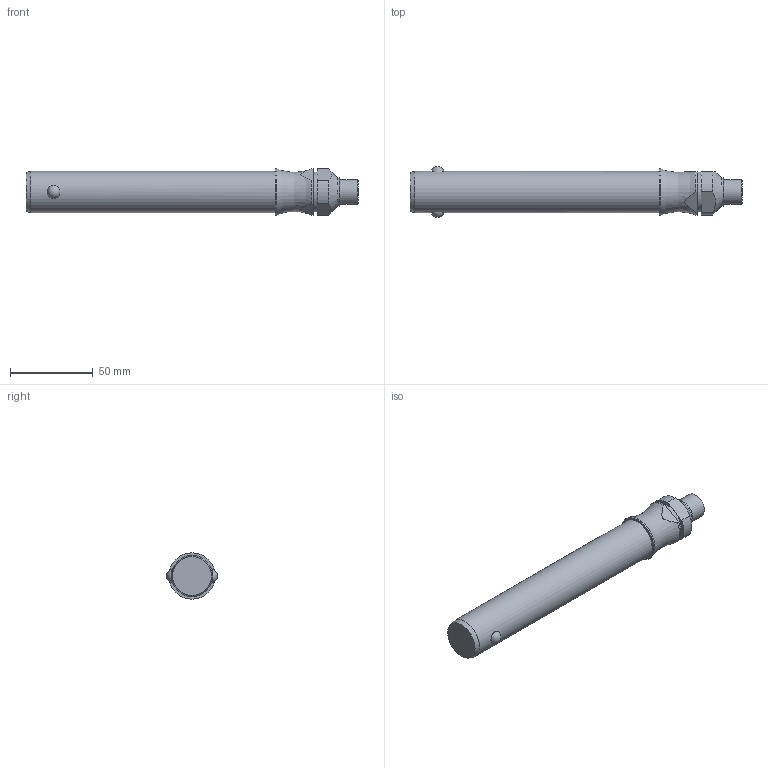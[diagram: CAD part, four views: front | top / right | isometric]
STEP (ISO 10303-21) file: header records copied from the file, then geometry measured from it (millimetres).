
FILE_DESCRIPTION( ( 'STEP AP203' ), '1' );
FILE_NAME( 'C:/Temp/Ganter_Step_05_03_2020/data/3_1/gn113_3/Stainless Steel-Ball lock pin GN 113.3-25-130 (deactivated).stp', '2020-03-12T08:19:13', ( 'License CC BY-ND 4.0' ), ( 'CADENAS' ), ' ', 'PARTsolutions', ' ' );
FILE_SCHEMA( ( 'CONFIG_CONTROL_DESIGN' ) );
Length unit declared in the file: millimetre
Products named in the file (1): _Stainless Steel-Ball lock pin GN 113.3-25-130 (deactivated)
Bounding box: 200.6 x 30.75 x 28 mm (x, y, z)
Volume: 94752.4 mm3; surface area: 16606.1 mm2
Topology: 1 solids, 1 shells, 29 faces, 62 edges, 40 vertices
Faces by surface type: plane 11, cylinder 11, cone 4, sphere 2, torus 1
Full cylindrical faces by diameter (mm): 15 x1, 17 x1, 24 x1, 25 x1, 28 x1
Entity records: 1006 total; most frequent: CARTESIAN_POINT 376, DIRECTION 126, ORIENTED_EDGE 100, AXIS2_PLACEMENT_3D 54, EDGE_CURVE 50, EDGE_LOOP 44, VERTEX_POINT 38, FACE_OUTER_BOUND 35
